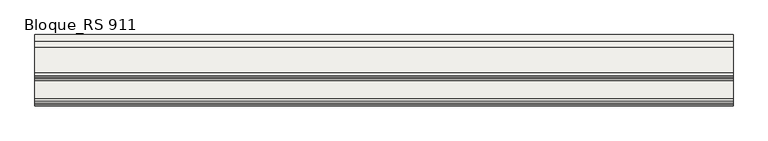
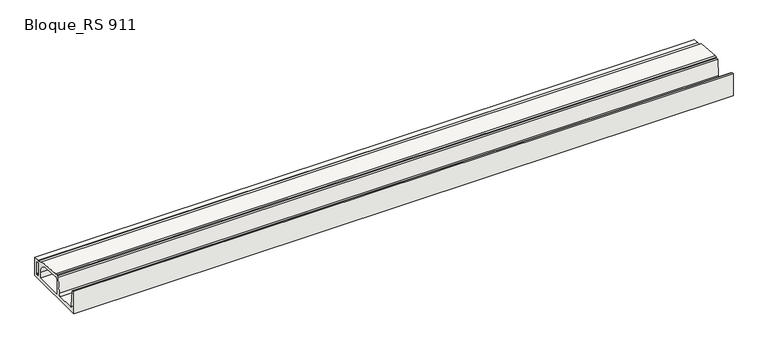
"""IFC4 building model written with IfcOpenShell, lengths in millimetres: slab geometry, ROSA GRES_RS 911 : Bloque_RS 911."""

from ifc_helpers import new_model, si_unit, point, frame, frame_2d, origin, place, context, project, spatial, polyline, circle_curve, trimmed, segment, composite_curve, outline, extrude, source, transform, mapped, element, save


def bloque_rs_911_2212c182(model_context):
    return source(origin(), model_context, "Body", "SweptSolid", [
        extrude(outline(composite_curve([segment(polyline([(-12.836227, 1.7539108), (-626.836227, 1.7539108), (-626.836227, 216.3460936), (-616.836227, 216.3460936), (-616.836227, 206.3460936), (-598.836227, 206.3460936), (-587.1239808, 55.2086635)]), True, "CONTINUOUS"), segment(trimmed(circle_curve(frame_2d((-567.1837649, 56.7539108)), 20.0), [point((-587.1239808, 55.2086635))], [point((-567.1837649, 36.7539108))], True, "CARTESIAN"), True, "CONTINUOUS"), segment(polyline([(-567.1837649, 36.7539108), (-413.4886891, 36.7539108)]), True, "CONTINUOUS"), segment(trimmed(circle_curve(frame_2d((-413.4886891, 56.7539108)), 20.0), [point((-413.4886891, 36.7539108))], [point((-393.5484732, 55.2086635))], True, "CARTESIAN"), True, "CONTINUOUS"), segment(polyline([(-393.5484732, 55.2086635), (-381.836227, 206.3460936), (-363.836227, 206.3460936), (-363.836227, 216.3460936), (-343.836227, 216.3460936), (-343.836227, 214.7181867), (-123.836227, 196.8112099), (-125.1172881, 181.0724591), (-72.836227, 176.8170239), (-72.836227, 173.8170239), (-67.836227, 173.8170239), (-67.836227, 176.4100471), (-12.836227, 171.9333029), (-12.836227, 1.7539108)]), True, "CONTINUOUS")], self_intersect=False), holes=[composite_curve([segment(polyline([(-67.836227, 140.6431347), (-67.836227, 36.7539108)]), True, "CONTINUOUS"), segment(trimmed(circle_curve(frame_2d((-59.836227, 36.7539108)), 8.0), [point((-67.836227, 36.7539108))], [point((-59.836227, 28.7539108))], True, "CARTESIAN"), True, "CONTINUOUS"), segment(polyline([(-59.836227, 28.7539108), (-47.836227, 28.7539108)]), True, "CONTINUOUS"), segment(trimmed(circle_curve(frame_2d((-47.836227, 36.7539108)), 8.0), [point((-47.836227, 28.7539108))], [point((-39.836227, 36.7539108))], True, "CARTESIAN"), True, "CONTINUOUS"), segment(polyline([(-39.836227, 36.7539108), (-39.836227, 139.6663905)]), True, "CONTINUOUS"), segment(trimmed(circle_curve(frame_2d((-47.836227, 139.6663905)), 8.0), [point((-39.836227, 139.6663905))], [point((-47.1872106, 147.6400206))], True, "CARTESIAN"), True, "CONTINUOUS"), segment(polyline([(-47.1872106, 147.6400206), (-59.1872106, 148.6167648)]), True, "CONTINUOUS"), segment(trimmed(circle_curve(frame_2d((-59.836227, 140.6431347)), 8.0), [point((-59.1872106, 148.6167648))], [point((-67.836227, 140.6431347))], True, "CARTESIAN"), True, "CONTINUOUS")], self_intersect=False), composite_curve([segment(polyline([(-180.4105134, 169.2541533), (-334.6837717, 181.811279)]), True, "CONTINUOUS"), segment(trimmed(circle_curve(frame_2d((-336.3063127, 161.8772036)), 20.0), [point((-334.6837717, 181.811279))], [point((-356.3063127, 161.8772036))], True, "CARTESIAN"), True, "CONTINUOUS"), segment(polyline([(-356.3063127, 161.8772036), (-356.3063127, 28.7539108), (-102.3063127, 28.7539108), (-102.3063127, 84.534333)]), True, "CONTINUOUS"), segment(trimmed(circle_curve(frame_2d((-187.3063127, 84.534333)), 85.0), [point((-102.3063127, 84.534333))], [point((-180.4105134, 169.2541533))], True, "CARTESIAN"), True, "CONTINUOUS")], self_intersect=False)]), frame((0.0, 0.0, 0.0), z_axis=(1.0, 0.0, 0.0), x_axis=(0.0, 1.0, 0.0)), (0.0, 0.0, 1.0), 6004.5),
    ])


if __name__ == "__main__":
    model = new_model("IFC4")
    model_context = context("Model", 3, world=origin())
    ifc_project = project(units=[si_unit("LENGTHUNIT", "METRE", prefix="MILLI")], contexts=[model_context])
    site = spatial("IfcSite", under=ifc_project)
    building = spatial("IfcBuilding", under=site)
    placement = place(None, origin())
    bloque_rs_911_shape = bloque_rs_911_2212c182(model_context)
    element("IfcSlab", 1, ObjectType="ROSA GRES_RS 911 : Bloque_RS 911", at=placement, inside=building, context=model_context, shape_type="MappedRepresentation", body=[
        mapped(bloque_rs_911_shape, transform((0.0, 0.0, 0.0), x_axis=(1.0, 0.0, 0.0), y_axis=(0.0, 1.0, 0.0), z_axis=(0.0, 0.0, 1.0))),
    ])
    save(model, "model.ifc")
